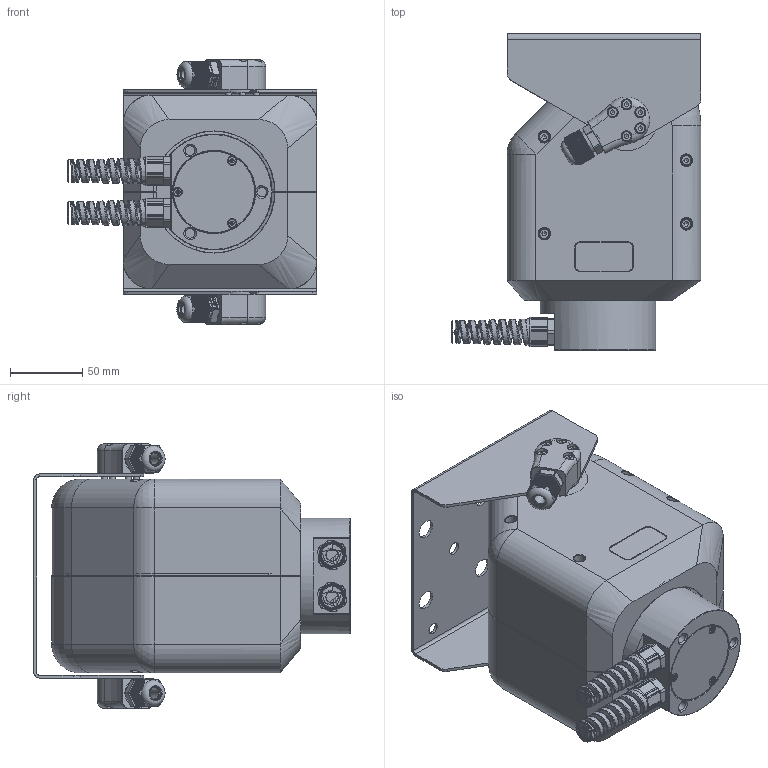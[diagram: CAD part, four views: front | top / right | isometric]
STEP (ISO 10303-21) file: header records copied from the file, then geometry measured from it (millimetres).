
FILE_DESCRIPTION(('STEP AP242'), '1');
FILE_NAME('义跛噻屦 TL.0009 (0192) (2 恹躅溧 疋屦躞)', '', ('UNSPECIFIED'), ('UNSPECIFIED'), 'C3D Converter', 'C3D Toolkit', '');
FILE_SCHEMA(('AP242_MANAGED_MODEL_BASED_3D_ENGINEERING_MIM_LF { 1 0 10303 442 1 1 4 }'));
Length unit declared in the file: millimetre
Products named in the file (26): TL.0008-1; Опора поворотки; MGB16P-10B пружина; Крышка опоры; ISO 7046-1  - M3 x 8 - 4.8 - Z; Кожух; Шильд TL.0008-003; Кронштейн полезной нагрузки; DIN 912 - M4 x 16; шайба нейлоновая WS4-1 20968; DIN 912 - M4 x 25; Кронштейн угловой кабельный; MGB12L-08B ввод кабельный; MGB12L-08B корпус; MGB12L-08B гайка затяжная; MGB12L-08B гайка зажима провода; MGB12L-08B прокладка резиновая; MGB12L-08B ввод кабельный-01; MGB12L-08B корпус-01; MGB12L-08B гайка затяжная-01; MGB12L-08B гайка зажима провода-01; MGB12L-08B прокладка резиновая-01
Assembly tree (48 placements, depth 3):
  TL.0008-1
    Опора поворотки
    MGB16P-10B пружина  x2
    Крышка опоры
    ISO 7046-1  - M3 x 8 - 4.8 - Z  x3
    Кожух
    Шильд TL.0008-003
    Кронштейн полезной нагрузки
    DIN 912 - M4 x 16  x4
    DIN 912 - M4 x 16
    DIN 912 - M4 x 16  x2
    DIN 912 - M4 x 16
    шайба нейлоновая WS4-1 20968  x8
    DIN 912 - M4 x 25  x5
    Кронштейн угловой кабельный  x2
    MGB12L-08B ввод кабельный
      MGB12L-08B корпус
      MGB12L-08B гайка затяжная
      MGB12L-08B гайка зажима провода
      MGB12L-08B прокладка резиновая
    MGB12L-08B ввод кабельный-01
      MGB12L-08B корпус-01
      MGB12L-08B гайка затяжная-01
      MGB12L-08B гайка зажима провода-01
      MGB12L-08B прокладка резиновая-01
    DIN 912 - M4 x 16  x5
Bounding box: 172.73 x 218.8 x 183 mm (x, y, z)
Volume: 622948.8 mm3; surface area: 371537.3 mm2
Topology: 47 solids, 47 shells, 2602 faces, 7306 edges, 4886 vertices
Faces by surface type: plane 1745, cylinder 458, cone 184, bspline 126, torus 85, sphere 4
Full cylindrical faces by diameter (mm): 1.6 x4, 2.5 x4, 2.693 x3, 3 x3, 3.2 x3, 3.3 x8, 4 x18, 4.1 x22, 4.2 x16, 5.5 x3, 6.7 x3, 6.8 x8, 7 x18, 7.5 x10, 8 x14, 8.6 x1, 8.7 x2, 9 x2, 10.5 x6, 11.4 x2, 12 x2, 13 x10, 14.5 x2, 14.6 x2, 16 x4, 18 x1, 20.1 x2, 30 x2, 42.1 x2, 44 x1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
Entity records: 107370 total; most frequent: CARTESIAN_POINT 35197, ORIENTED_EDGE 11652, DIRECTION 9681, EDGE_CURVE 5826, VERTEX_POINT 4016, LINE 3345, VECTOR 3345, AXIS2_PLACEMENT_3D 3168
